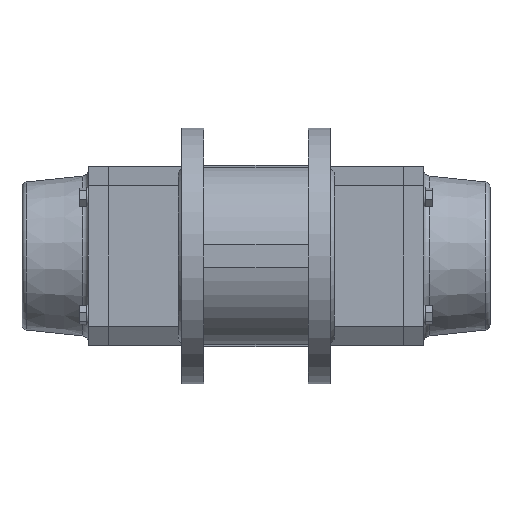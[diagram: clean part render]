
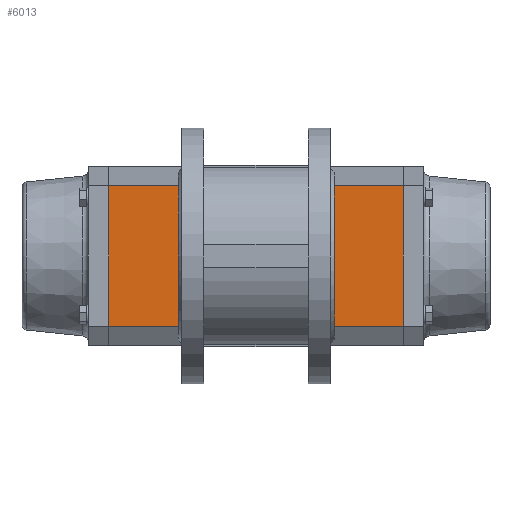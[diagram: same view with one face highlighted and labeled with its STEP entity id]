
A CAD part, front view. The second image highlights one B-rep face of the part: STEP entity #6013.
In plain terms, the highlighted planar face has unit normal (0, -1, 0).
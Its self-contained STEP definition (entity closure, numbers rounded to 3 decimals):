
#679 = FACE_BOUND ( 'NONE', #2149, .T. ) ;
#684 = FACE_BOUND ( 'NONE', #2131, .T. ) ;
#685 = FACE_BOUND ( 'NONE', #2137, .T. ) ;
#686 = FACE_OUTER_BOUND ( 'NONE', #2045, .T. ) ;
#687 = PLANE ( 'NONE',  #13048 ) ;
#688 = FACE_BOUND ( 'NONE', #2048, .T. ) ;
#690 = FACE_BOUND ( 'NONE', #2138, .T. ) ;
#691 = CARTESIAN_POINT ( 'NONE',  ( -55., -77.5, -115. ) ) ;
#692 = DIRECTION ( 'NONE',  ( 0., -1., 0. ) ) ;
#693 = DIRECTION ( 'NONE',  ( 0., 0., -1. ) ) ;
#995 = CARTESIAN_POINT ( 'NONE',  ( 36.062, -77.5, -40.312 ) ) ;
#1002 = CARTESIAN_POINT ( 'NONE',  ( 36.062, -77.5, 40.312 ) ) ;
#1008 = CARTESIAN_POINT ( 'NONE',  ( -36.062, -77.5, 40.312 ) ) ;
#1011 = CARTESIAN_POINT ( 'NONE',  ( -36.062, -77.5, -40.312 ) ) ;
#1038 = CARTESIAN_POINT ( 'NONE',  ( 0., -77.5, 35. ) ) ;
#2045 = EDGE_LOOP ( 'NONE', ( #4581, #4580, #4579, #4578 ) ) ;
#2048 = EDGE_LOOP ( 'NONE', ( #4587, #4586 ) ) ;
#2131 = EDGE_LOOP ( 'NONE', ( #4583, #4582 ) ) ;
#2137 = EDGE_LOOP ( 'NONE', ( #4591, #4590 ) ) ;
#2138 = EDGE_LOOP ( 'NONE', ( #4585, #4584 ) ) ;
#2149 = EDGE_LOOP ( 'NONE', ( #4589, #4588 ) ) ;
#3011 = EDGE_CURVE ( 'NONE', #4247, #4255, #15493, .T. ) ;
#3012 = EDGE_CURVE ( 'NONE', #4092, #15136, #11434, .T. ) ;
#3013 = EDGE_CURVE ( 'NONE', #4066, #15100, #11440, .T. ) ;
#3014 = EDGE_CURVE ( 'NONE', #15093, #4067, #11452, .T. ) ;
#3015 = EDGE_CURVE ( 'NONE', #15109, #4057, #11449, .T. ) ;
#3016 = EDGE_CURVE ( 'NONE', #4046, #15106, #11344, .T. ) ;
#3017 = EDGE_CURVE ( 'NONE', #4142, #4234, #15538, .T. ) ;
#3316 = EDGE_CURVE ( 'NONE', #15106, #4046, #3980, .T. ) ;
#3322 = EDGE_CURVE ( 'NONE', #4057, #15109, #3969, .T. ) ;
#3328 = EDGE_CURVE ( 'NONE', #4067, #15093, #3946, .T. ) ;
#3334 = EDGE_CURVE ( 'NONE', #15100, #4066, #3985, .T. ) ;
#3355 = EDGE_CURVE ( 'NONE', #15136, #4092, #12590, .T. ) ;
#3946 = CIRCLE ( 'NONE', #3967, 4.25 ) ;
#3964 = AXIS2_PLACEMENT_3D ( 'NONE', #5665, #5666, #5667 ) ;
#3967 = AXIS2_PLACEMENT_3D ( 'NONE', #5683, #5684, #5685 ) ;
#3969 = CIRCLE ( 'NONE', #3964, 4.25 ) ;
#3978 = AXIS2_PLACEMENT_3D ( 'NONE', #5647, #5648, #5649 ) ;
#3980 = CIRCLE ( 'NONE', #3978, 4.25 ) ;
#3985 = CIRCLE ( 'NONE', #5385, 4.25 ) ;
#4046 = VERTEX_POINT ( 'NONE', #7045 ) ;
#4057 = VERTEX_POINT ( 'NONE', #7056 ) ;
#4066 = VERTEX_POINT ( 'NONE', #7065 ) ;
#4067 = VERTEX_POINT ( 'NONE', #7066 ) ;
#4092 = VERTEX_POINT ( 'NONE', #7091 ) ;
#4142 = VERTEX_POINT ( 'NONE', #7141 ) ;
#4234 = VERTEX_POINT ( 'NONE', #7233 ) ;
#4247 = VERTEX_POINT ( 'NONE', #7246 ) ;
#4255 = VERTEX_POINT ( 'NONE', #7254 ) ;
#4578 = ORIENTED_EDGE ( 'NONE', *, *, #5864, .T. ) ;
#4579 = ORIENTED_EDGE ( 'NONE', *, *, #3017, .F. ) ;
#4580 = ORIENTED_EDGE ( 'NONE', *, *, #5848, .F. ) ;
#4581 = ORIENTED_EDGE ( 'NONE', *, *, #3011, .T. ) ;
#4582 = ORIENTED_EDGE ( 'NONE', *, *, #3316, .F. ) ;
#4583 = ORIENTED_EDGE ( 'NONE', *, *, #3016, .F. ) ;
#4584 = ORIENTED_EDGE ( 'NONE', *, *, #3322, .F. ) ;
#4585 = ORIENTED_EDGE ( 'NONE', *, *, #3015, .F. ) ;
#4586 = ORIENTED_EDGE ( 'NONE', *, *, #3328, .F. ) ;
#4587 = ORIENTED_EDGE ( 'NONE', *, *, #3014, .F. ) ;
#4588 = ORIENTED_EDGE ( 'NONE', *, *, #3334, .F. ) ;
#4589 = ORIENTED_EDGE ( 'NONE', *, *, #3013, .F. ) ;
#4590 = ORIENTED_EDGE ( 'NONE', *, *, #3355, .F. ) ;
#4591 = ORIENTED_EDGE ( 'NONE', *, *, #3012, .F. ) ;
#5385 = AXIS2_PLACEMENT_3D ( 'NONE', #5701, #5702, #5703 ) ;
#5647 = CARTESIAN_POINT ( 'NONE',  ( -36.062, -77.5, 36.062 ) ) ;
#5648 = DIRECTION ( 'NONE',  ( 0., -1., 0. ) ) ;
#5649 = DIRECTION ( 'NONE',  ( 0., 0., -1. ) ) ;
#5665 = CARTESIAN_POINT ( 'NONE',  ( -36.062, -77.5, -36.062 ) ) ;
#5666 = DIRECTION ( 'NONE',  ( 0., -1., 0. ) ) ;
#5667 = DIRECTION ( 'NONE',  ( 0., 0., -1. ) ) ;
#5683 = CARTESIAN_POINT ( 'NONE',  ( 36.062, -77.5, -36.062 ) ) ;
#5684 = DIRECTION ( 'NONE',  ( 0., -1., 0. ) ) ;
#5685 = DIRECTION ( 'NONE',  ( 0., 0., -1. ) ) ;
#5701 = CARTESIAN_POINT ( 'NONE',  ( 36.062, -77.5, 36.062 ) ) ;
#5702 = DIRECTION ( 'NONE',  ( 0., -1., 0. ) ) ;
#5703 = DIRECTION ( 'NONE',  ( 0., 0., -1. ) ) ;
#5763 = CARTESIAN_POINT ( 'NONE',  ( 0., -77.5, 0. ) ) ;
#5764 = DIRECTION ( 'NONE',  ( 0., -1., 0. ) ) ;
#5765 = DIRECTION ( 'NONE',  ( 0., 0., -1. ) ) ;
#5848 = EDGE_CURVE ( 'NONE', #4234, #4255, #7314, .T. ) ;
#5864 = EDGE_CURVE ( 'NONE', #4142, #4247, #7333, .T. ) ;
#6013 = ADVANCED_FACE ( 'NONE', ( #685, #679, #688, #690, #684, #686 ), #687, .T. ) ;
#7045 = CARTESIAN_POINT ( 'NONE',  ( -36.062, -77.5, 31.812 ) ) ;
#7056 = CARTESIAN_POINT ( 'NONE',  ( -36.062, -77.5, -31.812 ) ) ;
#7065 = CARTESIAN_POINT ( 'NONE',  ( 36.062, -77.5, 31.812 ) ) ;
#7066 = CARTESIAN_POINT ( 'NONE',  ( 36.062, -77.5, -31.812 ) ) ;
#7091 = CARTESIAN_POINT ( 'NONE',  ( 0., -77.5, -35. ) ) ;
#7141 = CARTESIAN_POINT ( 'NONE',  ( -55., -77.5, -115. ) ) ;
#7233 = CARTESIAN_POINT ( 'NONE',  ( -55., -77.5, 115. ) ) ;
#7246 = CARTESIAN_POINT ( 'NONE',  ( 55., -77.5, -115. ) ) ;
#7254 = CARTESIAN_POINT ( 'NONE',  ( 55., -77.5, 115. ) ) ;
#7314 = LINE ( 'NONE', #7336, #12818 ) ;
#7333 = LINE ( 'NONE', #7383, #12830 ) ;
#7336 = CARTESIAN_POINT ( 'NONE',  ( -55., -77.5, 115. ) ) ;
#7337 = DIRECTION ( 'NONE',  ( 1., 0., 0. ) ) ;
#7383 = CARTESIAN_POINT ( 'NONE',  ( -55., -77.5, -115. ) ) ;
#7384 = DIRECTION ( 'NONE',  ( 1., 0., 0. ) ) ;
#11344 = CIRCLE ( 'NONE', #11399, 4.25 ) ;
#11399 = AXIS2_PLACEMENT_3D ( 'NONE', #15539, #15540, #15541 ) ;
#11432 = VECTOR ( 'NONE', #15521, 1000. ) ;
#11434 = CIRCLE ( 'NONE', #11446, 35. ) ;
#11435 = VECTOR ( 'NONE', #15543, 1000. ) ;
#11440 = CIRCLE ( 'NONE', #11594, 4.25 ) ;
#11443 = AXIS2_PLACEMENT_3D ( 'NONE', #15530, #15531, #15532 ) ;
#11446 = AXIS2_PLACEMENT_3D ( 'NONE', #15523, #15524, #15525 ) ;
#11449 = CIRCLE ( 'NONE', #11464, 4.25 ) ;
#11452 = CIRCLE ( 'NONE', #11443, 4.25 ) ;
#11464 = AXIS2_PLACEMENT_3D ( 'NONE', #15533, #15534, #15535 ) ;
#11594 = AXIS2_PLACEMENT_3D ( 'NONE', #15527, #15528, #15529 ) ;
#12579 = AXIS2_PLACEMENT_3D ( 'NONE', #5763, #5764, #5765 ) ;
#12590 = CIRCLE ( 'NONE', #12579, 35. ) ;
#12818 = VECTOR ( 'NONE', #7337, 1000. ) ;
#12830 = VECTOR ( 'NONE', #7384, 1000. ) ;
#13048 = AXIS2_PLACEMENT_3D ( 'NONE', #691, #692, #693 ) ;
#15093 = VERTEX_POINT ( 'NONE', #995 ) ;
#15100 = VERTEX_POINT ( 'NONE', #1002 ) ;
#15106 = VERTEX_POINT ( 'NONE', #1008 ) ;
#15109 = VERTEX_POINT ( 'NONE', #1011 ) ;
#15136 = VERTEX_POINT ( 'NONE', #1038 ) ;
#15493 = LINE ( 'NONE', #15519, #11432 ) ;
#15519 = CARTESIAN_POINT ( 'NONE',  ( 55., -77.5, -115. ) ) ;
#15520 = CARTESIAN_POINT ( 'NONE',  ( -55., -77.5, -115. ) ) ;
#15521 = DIRECTION ( 'NONE',  ( 0., 0., 1. ) ) ;
#15523 = CARTESIAN_POINT ( 'NONE',  ( 0., -77.5, 0. ) ) ;
#15524 = DIRECTION ( 'NONE',  ( 0., -1., 0. ) ) ;
#15525 = DIRECTION ( 'NONE',  ( 0., 0., -1. ) ) ;
#15527 = CARTESIAN_POINT ( 'NONE',  ( 36.062, -77.5, 36.062 ) ) ;
#15528 = DIRECTION ( 'NONE',  ( 0., -1., 0. ) ) ;
#15529 = DIRECTION ( 'NONE',  ( 0., 0., -1. ) ) ;
#15530 = CARTESIAN_POINT ( 'NONE',  ( 36.062, -77.5, -36.062 ) ) ;
#15531 = DIRECTION ( 'NONE',  ( 0., -1., 0. ) ) ;
#15532 = DIRECTION ( 'NONE',  ( 0., 0., -1. ) ) ;
#15533 = CARTESIAN_POINT ( 'NONE',  ( -36.062, -77.5, -36.062 ) ) ;
#15534 = DIRECTION ( 'NONE',  ( 0., -1., 0. ) ) ;
#15535 = DIRECTION ( 'NONE',  ( 0., 0., -1. ) ) ;
#15538 = LINE ( 'NONE', #15520, #11435 ) ;
#15539 = CARTESIAN_POINT ( 'NONE',  ( -36.062, -77.5, 36.062 ) ) ;
#15540 = DIRECTION ( 'NONE',  ( 0., -1., 0. ) ) ;
#15541 = DIRECTION ( 'NONE',  ( 0., 0., -1. ) ) ;
#15543 = DIRECTION ( 'NONE',  ( 0., 0., 1. ) ) ;
